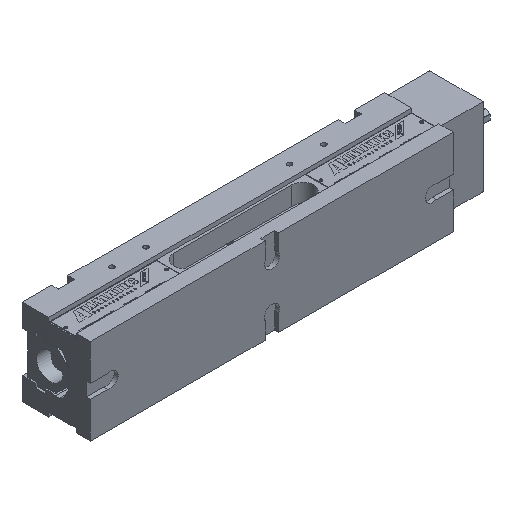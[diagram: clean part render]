
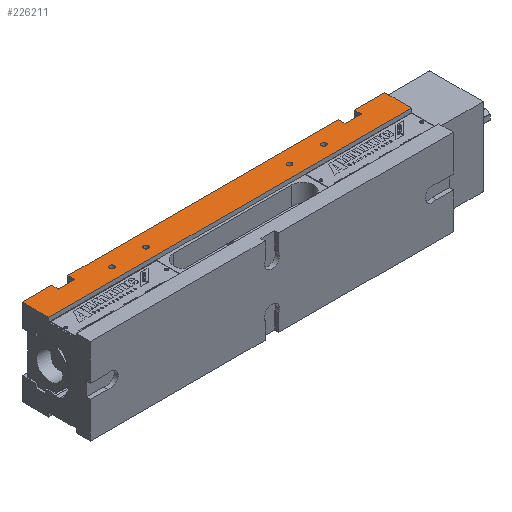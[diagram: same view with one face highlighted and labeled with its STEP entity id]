
A CAD part, isometric view. The second image highlights one B-rep face of the part: STEP entity #226211.
In plain terms, the highlighted planar face has unit normal (0, 0, 1).
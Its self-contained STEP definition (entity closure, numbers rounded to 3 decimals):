
#3100 = VERTEX_POINT ( 'NONE', #185826 ) ;
#4772 = LINE ( 'NONE', #87352, #115966 ) ;
#10828 = ORIENTED_EDGE ( 'NONE', *, *, #59577, .T. ) ;
#14059 = VERTEX_POINT ( 'NONE', #49339 ) ;
#14122 = EDGE_LOOP ( 'NONE', ( #119840, #205878, #141897, #98467, #184378, #189627, #10828, #43899, #71079, #121376, #242673, #256107 ) ) ;
#16660 = CARTESIAN_POINT ( 'NONE',  ( 534.2, 104., 63. ) ) ;
#19585 = DIRECTION ( 'NONE',  ( 1., 0., 0. ) ) ;
#19948 = CARTESIAN_POINT ( 'NONE',  ( 490.2, 104., 63. ) ) ;
#22558 = EDGE_CURVE ( 'NONE', #114409, #104270, #120073, .T. ) ;
#25149 = CARTESIAN_POINT ( 'NONE',  ( 424.2, 83., 63. ) ) ;
#26469 = DIRECTION ( 'NONE',  ( 1., 0., 0. ) ) ;
#33018 = CARTESIAN_POINT ( 'NONE',  ( 427.6, 83., 63. ) ) ;
#34599 = DIRECTION ( 'NONE',  ( 0., -1., 0. ) ) ;
#35357 = CARTESIAN_POINT ( 'NONE',  ( 377.6, 83., 63. ) ) ;
#36616 = ORIENTED_EDGE ( 'NONE', *, *, #242232, .F. ) ;
#43598 = VECTOR ( 'NONE', #157003, 1000. ) ;
#43899 = ORIENTED_EDGE ( 'NONE', *, *, #222928, .T. ) ;
#44058 = CARTESIAN_POINT ( 'NONE',  ( 534.2, 107., 63. ) ) ;
#46515 = CIRCLE ( 'NONE', #258185, 3.4 ) ;
#49339 = CARTESIAN_POINT ( 'NONE',  ( 167.6, 83., 63. ) ) ;
#49942 = DIRECTION ( 'NONE',  ( 0., 0., 1. ) ) ;
#51329 = AXIS2_PLACEMENT_3D ( 'NONE', #128222, #187769, #87604 ) ;
#59179 = EDGE_CURVE ( 'NONE', #210998, #188084, #192132, .T. ) ;
#59577 = EDGE_CURVE ( 'NONE', #91519, #158578, #225398, .T. ) ;
#60470 = DIRECTION ( 'NONE',  ( -1., 0., 0. ) ) ;
#61322 = FACE_BOUND ( 'NONE', #113319, .T. ) ;
#67082 = DIRECTION ( 'NONE',  ( 0., 0., 1. ) ) ;
#67257 = EDGE_CURVE ( 'NONE', #114275, #114275, #143081, .T. ) ;
#70110 = ORIENTED_EDGE ( 'NONE', *, *, #75589, .F. ) ;
#71079 = ORIENTED_EDGE ( 'NONE', *, *, #59179, .T. ) ;
#71166 = DIRECTION ( 'NONE',  ( -1., 0., 0. ) ) ;
#75115 = CARTESIAN_POINT ( 'NONE',  ( 540., 104., 63. ) ) ;
#75589 = EDGE_CURVE ( 'NONE', #14059, #14059, #231554, .T. ) ;
#76274 = FACE_BOUND ( 'NONE', #117415, .T. ) ;
#77343 = EDGE_CURVE ( 'NONE', #231551, #114409, #188866, .T. ) ;
#83764 = CARTESIAN_POINT ( 'NONE',  ( 490.2, 104., 63. ) ) ;
#87352 = CARTESIAN_POINT ( 'NONE',  ( 71.2, 104., 63. ) ) ;
#87604 = DIRECTION ( 'NONE',  ( 1., 0., 0. ) ) ;
#89349 = VERTEX_POINT ( 'NONE', #216968 ) ;
#91519 = VERTEX_POINT ( 'NONE', #211908 ) ;
#95465 = LINE ( 'NONE', #195656, #208792 ) ;
#95894 = CARTESIAN_POINT ( 'NONE',  ( 114.2, 83., 63. ) ) ;
#96620 = FACE_BOUND ( 'NONE', #190891, .T. ) ;
#97544 = AXIS2_PLACEMENT_3D ( 'NONE', #177829, #219718, #158869 ) ;
#98467 = ORIENTED_EDGE ( 'NONE', *, *, #98631, .T. ) ;
#98631 = EDGE_CURVE ( 'NONE', #247496, #138711, #218522, .T. ) ;
#101633 = VERTEX_POINT ( 'NONE', #35357 ) ;
#102706 = CARTESIAN_POINT ( 'NONE',  ( 4., 65., 63. ) ) ;
#104270 = VERTEX_POINT ( 'NONE', #83764 ) ;
#106039 = EDGE_CURVE ( 'NONE', #231551, #188084, #95465, .T. ) ;
#107496 = VERTEX_POINT ( 'NONE', #169789 ) ;
#111166 = CARTESIAN_POINT ( 'NONE',  ( 490.2, 94., 63. ) ) ;
#113319 = EDGE_LOOP ( 'NONE', ( #36616 ) ) ;
#114275 = VERTEX_POINT ( 'NONE', #33018 ) ;
#114409 = VERTEX_POINT ( 'NONE', #16660 ) ;
#115740 = DIRECTION ( 'NONE',  ( -1., 0., 0. ) ) ;
#115840 = CARTESIAN_POINT ( 'NONE',  ( 4., 104., 63. ) ) ;
#115966 = VECTOR ( 'NONE', #169885, 1000. ) ;
#117415 = EDGE_LOOP ( 'NONE', ( #70110 ) ) ;
#119840 = ORIENTED_EDGE ( 'NONE', *, *, #120790, .F. ) ;
#120073 = LINE ( 'NONE', #222847, #144823 ) ;
#120083 = LINE ( 'NONE', #244460, #177554 ) ;
#120399 = VERTEX_POINT ( 'NONE', #111166 ) ;
#120790 = EDGE_CURVE ( 'NONE', #120399, #104270, #205337, .T. ) ;
#121054 = EDGE_CURVE ( 'NONE', #247496, #89349, #180732, .T. ) ;
#121376 = ORIENTED_EDGE ( 'NONE', *, *, #106039, .F. ) ;
#127844 = LINE ( 'NONE', #186036, #214651 ) ;
#128222 = CARTESIAN_POINT ( 'NONE',  ( 374.2, 83., 63. ) ) ;
#128568 = VECTOR ( 'NONE', #141784, 1000. ) ;
#132278 = EDGE_CURVE ( 'NONE', #107496, #91519, #120083, .T. ) ;
#136338 = CARTESIAN_POINT ( 'NONE',  ( 71.2, 104., 63. ) ) ;
#138711 = VERTEX_POINT ( 'NONE', #136338 ) ;
#141187 = VECTOR ( 'NONE', #249697, 1000. ) ;
#141784 = DIRECTION ( 'NONE',  ( 0., 1., 0. ) ) ;
#141897 = ORIENTED_EDGE ( 'NONE', *, *, #121054, .F. ) ;
#143081 = CIRCLE ( 'NONE', #199262, 3.4 ) ;
#143888 = CARTESIAN_POINT ( 'NONE',  ( 540., 104., 63. ) ) ;
#144823 = VECTOR ( 'NONE', #60470, 1000. ) ;
#146005 = EDGE_CURVE ( 'NONE', #3100, #3100, #46515, .T. ) ;
#151286 = EDGE_LOOP ( 'NONE', ( #162346 ) ) ;
#157003 = DIRECTION ( 'NONE',  ( -1., 0., 0. ) ) ;
#158578 = VERTEX_POINT ( 'NONE', #207073 ) ;
#158869 = DIRECTION ( 'NONE',  ( 1., 0., 0. ) ) ;
#161506 = FACE_BOUND ( 'NONE', #151286, .T. ) ;
#162346 = ORIENTED_EDGE ( 'NONE', *, *, #67257, .F. ) ;
#169789 = CARTESIAN_POINT ( 'NONE',  ( 71.2, 94., 63. ) ) ;
#169885 = DIRECTION ( 'NONE',  ( 0., -1., 0. ) ) ;
#176720 = VECTOR ( 'NONE', #184827, 1000. ) ;
#177554 = VECTOR ( 'NONE', #203918, 1000. ) ;
#177829 = CARTESIAN_POINT ( 'NONE',  ( 164.2, 83., 63. ) ) ;
#180732 = LINE ( 'NONE', #202360, #193609 ) ;
#181480 = CARTESIAN_POINT ( 'NONE',  ( 466.2, 104., 63. ) ) ;
#184378 = ORIENTED_EDGE ( 'NONE', *, *, #208677, .T. ) ;
#184827 = DIRECTION ( 'NONE',  ( 0., 1., 0. ) ) ;
#185826 = CARTESIAN_POINT ( 'NONE',  ( 117.6, 83., 63. ) ) ;
#186036 = CARTESIAN_POINT ( 'NONE',  ( 540., 94., 63. ) ) ;
#187769 = DIRECTION ( 'NONE',  ( 0., 0., 1. ) ) ;
#188084 = VERTEX_POINT ( 'NONE', #102706 ) ;
#188866 = LINE ( 'NONE', #44058, #141187 ) ;
#189627 = ORIENTED_EDGE ( 'NONE', *, *, #132278, .T. ) ;
#190785 = AXIS2_PLACEMENT_3D ( 'NONE', #143888, #199416, #204741 ) ;
#190891 = EDGE_LOOP ( 'NONE', ( #208361 ) ) ;
#192132 = LINE ( 'NONE', #240642, #206857 ) ;
#193609 = VECTOR ( 'NONE', #34599, 1000. ) ;
#194777 = DIRECTION ( 'NONE',  ( 0., -1., 0. ) ) ;
#195656 = CARTESIAN_POINT ( 'NONE',  ( 540., 65., 63. ) ) ;
#199262 = AXIS2_PLACEMENT_3D ( 'NONE', #25149, #67082, #26469 ) ;
#199416 = DIRECTION ( 'NONE',  ( 0., 0., -1. ) ) ;
#200763 = PLANE ( 'NONE',  #190785 ) ;
#201929 = EDGE_CURVE ( 'NONE', #89349, #120399, #127844, .T. ) ;
#202360 = CARTESIAN_POINT ( 'NONE',  ( 466.2, 104., 63. ) ) ;
#203918 = DIRECTION ( 'NONE',  ( -1., 0., 0. ) ) ;
#204741 = DIRECTION ( 'NONE',  ( 0., 1., 0. ) ) ;
#205337 = LINE ( 'NONE', #19948, #128568 ) ;
#205878 = ORIENTED_EDGE ( 'NONE', *, *, #201929, .F. ) ;
#206857 = VECTOR ( 'NONE', #194777, 1000. ) ;
#207073 = CARTESIAN_POINT ( 'NONE',  ( 47.2, 104., 63. ) ) ;
#208361 = ORIENTED_EDGE ( 'NONE', *, *, #146005, .F. ) ;
#208677 = EDGE_CURVE ( 'NONE', #138711, #107496, #4772, .T. ) ;
#208792 = VECTOR ( 'NONE', #71166, 1000. ) ;
#209467 = CARTESIAN_POINT ( 'NONE',  ( 534.2, 65., 63. ) ) ;
#210998 = VERTEX_POINT ( 'NONE', #115840 ) ;
#211908 = CARTESIAN_POINT ( 'NONE',  ( 47.2, 94., 63. ) ) ;
#214651 = VECTOR ( 'NONE', #19585, 1000. ) ;
#216968 = CARTESIAN_POINT ( 'NONE',  ( 466.2, 94., 63. ) ) ;
#217854 = CARTESIAN_POINT ( 'NONE',  ( 540., 104., 63. ) ) ;
#218522 = LINE ( 'NONE', #75115, #237516 ) ;
#219718 = DIRECTION ( 'NONE',  ( 0., 0., 1. ) ) ;
#222847 = CARTESIAN_POINT ( 'NONE',  ( 540., 104., 63. ) ) ;
#222928 = EDGE_CURVE ( 'NONE', #158578, #210998, #263777, .T. ) ;
#223675 = FACE_OUTER_BOUND ( 'NONE', #14122, .T. ) ;
#224168 = CIRCLE ( 'NONE', #51329, 3.4 ) ;
#225398 = LINE ( 'NONE', #241678, #176720 ) ;
#226211 = ADVANCED_FACE ( 'NONE', ( #161506, #61322, #76274, #96620, #223675 ), #200763, .F. ) ;
#231551 = VERTEX_POINT ( 'NONE', #209467 ) ;
#231554 = CIRCLE ( 'NONE', #97544, 3.4 ) ;
#233958 = DIRECTION ( 'NONE',  ( 1., 0., 0. ) ) ;
#237516 = VECTOR ( 'NONE', #115740, 1000. ) ;
#240642 = CARTESIAN_POINT ( 'NONE',  ( 4., 107., 63. ) ) ;
#241678 = CARTESIAN_POINT ( 'NONE',  ( 47.2, 104., 63. ) ) ;
#242232 = EDGE_CURVE ( 'NONE', #101633, #101633, #224168, .T. ) ;
#242673 = ORIENTED_EDGE ( 'NONE', *, *, #77343, .T. ) ;
#244460 = CARTESIAN_POINT ( 'NONE',  ( 540., 94., 63. ) ) ;
#247496 = VERTEX_POINT ( 'NONE', #181480 ) ;
#249697 = DIRECTION ( 'NONE',  ( 0., 1., 0. ) ) ;
#256107 = ORIENTED_EDGE ( 'NONE', *, *, #22558, .T. ) ;
#258185 = AXIS2_PLACEMENT_3D ( 'NONE', #95894, #49942, #233958 ) ;
#263777 = LINE ( 'NONE', #217854, #43598 ) ;
